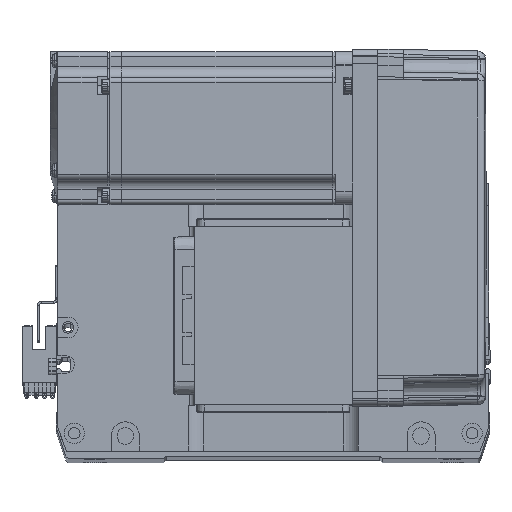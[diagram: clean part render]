
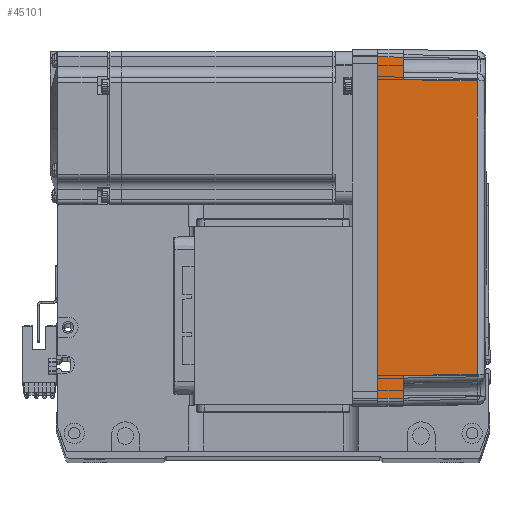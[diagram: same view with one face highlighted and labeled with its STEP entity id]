
A CAD part, top view. The second image highlights one B-rep face of the part: STEP entity #45101.
In plain terms, the highlighted planar face has unit normal (0.018, 0, 1) as drawn and (0, -1, 0.017) by its records, which use the part's own axes.
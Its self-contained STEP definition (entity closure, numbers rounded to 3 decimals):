
#267 = ORIENTED_EDGE ( 'NONE', *, *, #48064, .T. ) ;
#713 = CARTESIAN_POINT ( 'NONE',  ( 70., -36., 0. ) ) ;
#7554 = VECTOR ( 'NONE', #43387, 1000. ) ;
#11881 = CARTESIAN_POINT ( 'NONE',  ( 58., -35.825, 10. ) ) ;
#12853 = ORIENTED_EDGE ( 'NONE', *, *, #24371, .T. ) ;
#14413 = ORIENTED_EDGE ( 'NONE', *, *, #24430, .F. ) ;
#14841 = CARTESIAN_POINT ( 'NONE',  ( -66.959, -35.958, 2.39 ) ) ;
#15953 = EDGE_CURVE ( 'NONE', #46478, #44626, #23667, .T. ) ;
#16524 = ORIENTED_EDGE ( 'NONE', *, *, #34598, .T. ) ;
#17227 = CARTESIAN_POINT ( 'NONE',  ( 70., -35.825, 10. ) ) ;
#18350 = CARTESIAN_POINT ( 'NONE',  ( 57.495, -35.32, 38.985 ) ) ;
#19806 = CARTESIAN_POINT ( 'NONE',  ( -57.495, -35.32, 38.985 ) ) ;
#20535 = EDGE_CURVE ( 'NONE', #39683, #58204, #29473, .T. ) ;
#20654 = LINE ( 'NONE', #14841, #45045 ) ;
#21148 = ORIENTED_EDGE ( 'NONE', *, *, #20535, .T. ) ;
#22016 = CARTESIAN_POINT ( 'NONE',  ( 19.165, -35.316, 39.181 ) ) ;
#22217 = CARTESIAN_POINT ( 'NONE',  ( 57.495, -35.32, 38.985 ) ) ;
#23667 = LINE ( 'NONE', #43178, #56348 ) ;
#24371 = EDGE_CURVE ( 'NONE', #57308, #55554, #60999, .T. ) ;
#24430 = EDGE_CURVE ( 'NONE', #62172, #41102, #20654, .T. ) ;
#24607 = PLANE ( 'NONE',  #47398 ) ;
#25674 = VECTOR ( 'NONE', #46146, 1000. ) ;
#25684 = EDGE_CURVE ( 'NONE', #46478, #62172, #45308, .T. ) ;
#26518 = CARTESIAN_POINT ( 'NONE',  ( -57.495, -35.32, 38.985 ) ) ;
#27503 = CARTESIAN_POINT ( 'NONE',  ( 58., -35.825, 10. ) ) ;
#29118 = DIRECTION ( 'NONE',  ( 0.017, 0.017, 1. ) ) ;
#29287 = DIRECTION ( 'NONE',  ( 0., -0.017, -1. ) ) ;
#29473 = LINE ( 'NONE', #11881, #25674 ) ;
#29832 = VECTOR ( 'NONE', #48708, 1000. ) ;
#31586 = CARTESIAN_POINT ( 'NONE',  ( 67., -36., 0. ) ) ;
#34432 = CARTESIAN_POINT ( 'NONE',  ( -57.495, -35.32, 38.985 ) ) ;
#34598 = EDGE_CURVE ( 'NONE', #55554, #41102, #51712, .T. ) ;
#34821 = DIRECTION ( 'NONE',  ( 0., -1., 0.017 ) ) ;
#36538 = EDGE_CURVE ( 'NONE', #44626, #39683, #42975, .T. ) ;
#38313 = DIRECTION ( 'NONE',  ( -0.017, 0.017, 1. ) ) ;
#38480 = VECTOR ( 'NONE', #41463, 1000. ) ;
#39627 = EDGE_LOOP ( 'NONE', ( #60541, #56861, #21148, #267, #12853, #16524, #14413, #45254 ) ) ;
#39683 = VERTEX_POINT ( 'NONE', #27503 ) ;
#39783 = CARTESIAN_POINT ( 'NONE',  ( 66.826, -35.825, 10. ) ) ;
#41102 = VERTEX_POINT ( 'NONE', #53320 ) ;
#41463 = DIRECTION ( 'NONE',  ( -1., 0., 0. ) ) ;
#41866 = CARTESIAN_POINT ( 'NONE',  ( 0., -36., 0. ) ) ;
#42975 = LINE ( 'NONE', #17227, #56647 ) ;
#43178 = CARTESIAN_POINT ( 'NONE',  ( 67., -36., 0. ) ) ;
#43224 = CARTESIAN_POINT ( 'NONE',  ( -67., -36., 0. ) ) ;
#43387 = DIRECTION ( 'NONE',  ( -1., 0., 0. ) ) ;
#44626 = VERTEX_POINT ( 'NONE', #39783 ) ;
#45045 = VECTOR ( 'NONE', #29118, 1000. ) ;
#45101 = ADVANCED_FACE ( 'NONE', ( #56634 ), #24607, .T. ) ;
#45254 = ORIENTED_EDGE ( 'NONE', *, *, #25684, .F. ) ;
#45308 = LINE ( 'NONE', #41866, #38480 ) ;
#46146 = DIRECTION ( 'NONE',  ( -0.017, 0.017, 1. ) ) ;
#46478 = VERTEX_POINT ( 'NONE', #31586 ) ;
#47398 = AXIS2_PLACEMENT_3D ( 'NONE', #713, #34821, #29287 ) ;
#48064 = EDGE_CURVE ( 'NONE', #58204, #57308, #59565, .T. ) ;
#48708 = DIRECTION ( 'NONE',  ( -0.017, -0.017, -1. ) ) ;
#51712 = LINE ( 'NONE', #62720, #7554 ) ;
#53320 = CARTESIAN_POINT ( 'NONE',  ( -66.826, -35.825, 10. ) ) ;
#55554 = VERTEX_POINT ( 'NONE', #58305 ) ;
#56191 = DIRECTION ( 'NONE',  ( -1., 0., 0. ) ) ;
#56249 = CARTESIAN_POINT ( 'NONE',  ( -19.165, -35.316, 39.181 ) ) ;
#56348 = VECTOR ( 'NONE', #38313, 1000. ) ;
#56634 = FACE_OUTER_BOUND ( 'NONE', #39627, .T. ) ;
#56647 = VECTOR ( 'NONE', #56191, 1000. ) ;
#56861 = ORIENTED_EDGE ( 'NONE', *, *, #36538, .T. ) ;
#57308 = VERTEX_POINT ( 'NONE', #19806 ) ;
#58204 = VERTEX_POINT ( 'NONE', #18350 ) ;
#58305 = CARTESIAN_POINT ( 'NONE',  ( -58., -35.825, 10. ) ) ;
#59565 = B_SPLINE_CURVE_WITH_KNOTS ( 'NONE', 3,
 ( #22217, #22016, #56249, #26518 ),
 .UNSPECIFIED., .F., .F.,
 ( 4, 4 ),
 ( 0., 1. ),
 .UNSPECIFIED. ) ;
#60541 = ORIENTED_EDGE ( 'NONE', *, *, #15953, .T. ) ;
#60999 = LINE ( 'NONE', #34432, #29832 ) ;
#62172 = VERTEX_POINT ( 'NONE', #43224 ) ;
#62720 = CARTESIAN_POINT ( 'NONE',  ( 70., -35.825, 10. ) ) ;
